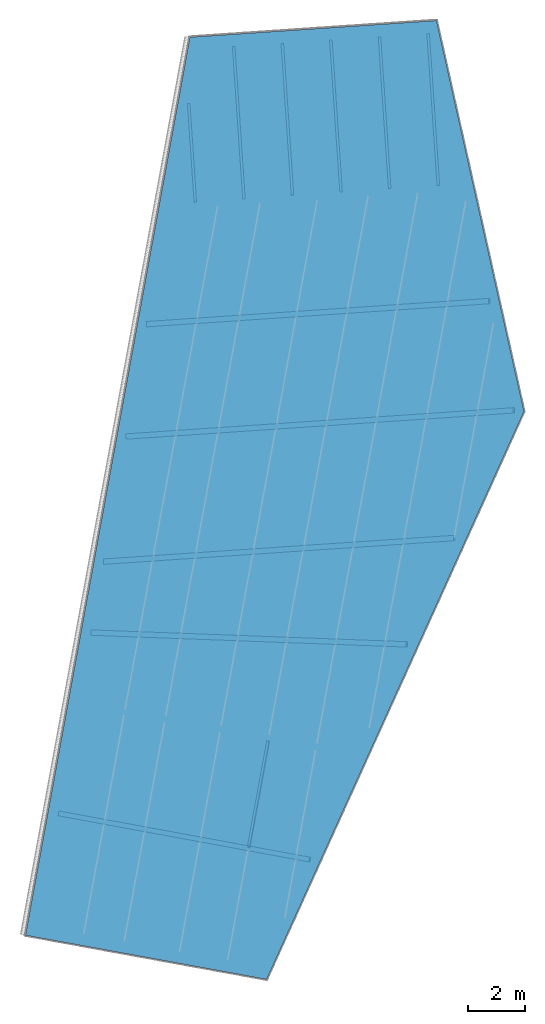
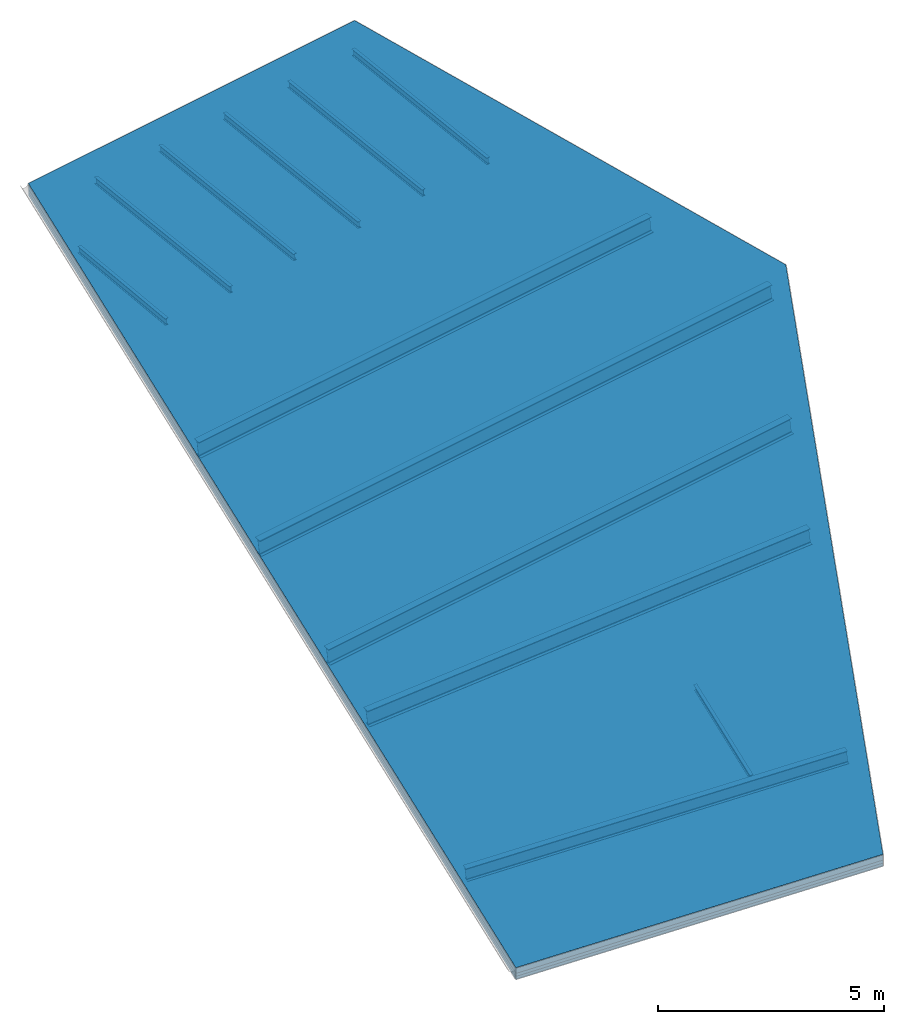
# One storey, part 1 of 3: 12 beams, 5 building element parts, 1 element without a shape of its own.
"""IFC2X3 building model written with IfcOpenShell, lengths in centimetres."""

import ifcopenshell
import ifcopenshell.guid

model = None  # the IFC model being written
_history = None  # IfcOwnerHistory: only IFC2X3 demands one
_inside = {}  # id of a spatial element -> (the spatial element, [elements in it])
_under = {}  # id of a project, library or spatial element -> (it, [spatial elements below it])
_declared = {}  # id of a project -> (the project, [libraries it declares])
_typed = {}  # id of a type object -> (the type object, [elements of that type])
_made_of = {}  # id of a material, layer set ... -> (it, [elements and type objects made of it])


def new_model(schema):
    """Start an empty IFC model of exactly this schema.

    Asked for "IFC4X3", IfcOpenShell would pick the latest addendum, in which some entities
    have other attributes; the version numbers below select the first issue.
    IFC2X3 requires an IfcOwnerHistory on every rooted entity: one is made here for all.
    """
    global model, _history
    if schema == "IFC4X3":
        model = ifcopenshell.file(schema_version=(4, 3, 0, 0))
    else:
        model = ifcopenshell.file(schema=schema)
    _inside.clear()
    _under.clear()
    _declared.clear()
    _typed.clear()
    _made_of.clear()
    _history = None
    if model.schema == "IFC2X3":
        org = make("IfcOrganization", Name="unknown")
        user = make(
            "IfcPersonAndOrganization",
            ThePerson=make("IfcPerson", FamilyName="unknown"),
            TheOrganization=org,
        )
        app = make(
            "IfcApplication",
            ApplicationDeveloper=org,
            Version="unknown",
            ApplicationFullName="unknown",
            ApplicationIdentifier="unknown",
        )
        _history = make(
            "IfcOwnerHistory",
            OwningUser=user,
            OwningApplication=app,
            ChangeAction="ADDED",
            CreationDate=0,
        )
    return model


def make(cls, **values):
    """One entity of the class cls with the attributes given. An attribute that is None is left unset."""
    return model.create_entity(
        cls, **{name: value for name, value in values.items() if value is not None}
    )


def entity(cls, *values):
    """Any entity or typed value of the class cls, its attributes in the order of the schema. None: left unset."""
    e = model.create_entity(cls)
    for i, value in enumerate(values):
        if value is not None:
            e[i] = value
    return e


def rooted(cls, **values):
    """An entity with a GlobalId (a new one), such as an element, a storey or a relation."""
    return make(cls, GlobalId=ifcopenshell.guid.new(), OwnerHistory=_history, **values)


def si_unit(unit_type, name, prefix=None):
    """IfcSIUnit, for example si_unit("LENGTHUNIT", "METRE", prefix="MILLI")."""
    return make("IfcSIUnit", UnitType=unit_type, Prefix=prefix, Name=name)


def converted_unit(unit_type, name, factor, base, dimensions=None, offset=None):
    """IfcConversionBasedUnit, such as the inch: factor (a typed value) times the base unit."""
    return make(
        "IfcConversionBasedUnit"
        if offset is None
        else "IfcConversionBasedUnitWithOffset",
        ConversionOffset=offset,
        Dimensions=None
        if dimensions is None
        else entity("IfcDimensionalExponents", *dimensions),
        UnitType=unit_type,
        Name=name,
        ConversionFactor=make(
            "IfcMeasureWithUnit", ValueComponent=factor, UnitComponent=base
        ),
    )


def derived_unit(unit_type, elements):
    """IfcDerivedUnit: a product of units, each with its exponent."""
    return make(
        "IfcDerivedUnit",
        Elements=[
            make("IfcDerivedUnitElement", Unit=unit, Exponent=power)
            for unit, power in elements
        ],
        UnitType=unit_type,
    )


def assignment(units):
    """IfcUnitAssignment: the units of a project."""
    return None if units is None else make("IfcUnitAssignment", Units=units)


def point(xyz):
    """IfcCartesianPoint."""
    return None if xyz is None else make("IfcCartesianPoint", Coordinates=xyz)


def direction(xyz):
    """IfcDirection."""
    return None if xyz is None else make("IfcDirection", DirectionRatios=xyz)


def frame(location, z_axis=None, x_axis=None):
    """IfcAxis2Placement3D, a coordinate frame: its origin and axes. An axis left out is left unset."""
    return make(
        "IfcAxis2Placement3D",
        Location=point(location),
        Axis=direction(z_axis),
        RefDirection=direction(x_axis),
    )


def frame_2d(location, x_axis=None):
    """IfcAxis2Placement2D, a coordinate frame in the plane: its origin and x axis."""
    return make(
        "IfcAxis2Placement2D", Location=point(location), RefDirection=direction(x_axis)
    )


def origin():
    """The frame at (0, 0, 0) with its axes left unset."""
    return frame((0.0, 0.0, 0.0))


def place(relative_to, where):
    """IfcLocalPlacement: puts the frame where relative to a parent placement (None: the world)."""
    return make(
        "IfcLocalPlacement", PlacementRelTo=relative_to, RelativePlacement=where
    )


def context(
    kind, dimensions, precision=None, world=None, true_north=None, identifier=None
):
    """IfcGeometricRepresentationContext, for example the 3D "Model" context."""
    return make(
        "IfcGeometricRepresentationContext",
        ContextIdentifier=identifier,
        ContextType=kind,
        CoordinateSpaceDimension=dimensions,
        Precision=precision,
        WorldCoordinateSystem=world,
        TrueNorth=true_north,
    )


def subcontext(parent, identifier, kind, view, scale=None):
    """IfcGeometricRepresentationSubContext, for example "Body" below "Model"."""
    return make(
        "IfcGeometricRepresentationSubContext",
        ContextIdentifier=identifier,
        ContextType=kind,
        ParentContext=parent,
        TargetScale=scale,
        TargetView=view,
    )


def project(units=None, contexts=None):
    """IfcProject with its units and contexts."""
    return rooted(
        "IfcProject",
        Name="project",
        RepresentationContexts=contexts,
        UnitsInContext=assignment(units),
    )


def spatial(cls, under=None, at=None, **own):
    """A site, building, storey or space (cls), placed at a placement, below another one or the project."""
    s = rooted(cls, ObjectPlacement=at, **own)
    if under is not None:
        _under.setdefault(under.id(), (under, []))[1].append(s)
    return s


def polyline(points):
    """IfcPolyline through the points."""
    return make("IfcPolyline", Points=[point(p) for p in points])


def circle_curve(where, radius):
    """IfcCircle in the frame where."""
    return make("IfcCircle", Position=where, Radius=radius)


def parameter(value):
    """IfcParameterValue: where a trimmed curve begins or ends, as a parameter of its basis curve."""
    return model.create_entity("IfcParameterValue", value)


def trimmed(basis, trim1, trim2, sense, master):
    """IfcTrimmedCurve: the piece of a basis curve between two trims."""
    return make(
        "IfcTrimmedCurve",
        BasisCurve=basis,
        Trim1=trim1,
        Trim2=trim2,
        SenseAgreement=sense,
        MasterRepresentation=master,
    )


def segment(curve, same_sense, transition):
    """IfcCompositeCurveSegment."""
    return make(
        "IfcCompositeCurveSegment",
        Transition=transition,
        SameSense=same_sense,
        ParentCurve=curve,
    )


def composite_curve(segments, self_intersect=None):
    """IfcCompositeCurve: segments joined end to end."""
    return make("IfcCompositeCurve", Segments=segments, SelfIntersect=self_intersect)


def profile(cls, at=None, kind="AREA", **sizes):
    """A parametric profile (cls). Its sizes go by their IFC names, for example OverallWidth=200.0."""
    return make(cls, ProfileType=kind, Position=at, **sizes)


def i_section(**sizes):
    """IfcIShapeProfileDef."""
    return profile("IfcIShapeProfileDef", **sizes)


def outline(outer, holes=None, kind="AREA"):
    """IfcArbitraryClosedProfileDef: a profile drawn as a closed curve; with holes, ...WithVoids."""
    if holes is None:
        return make("IfcArbitraryClosedProfileDef", ProfileType=kind, OuterCurve=outer)
    return make(
        "IfcArbitraryProfileDefWithVoids",
        ProfileType=kind,
        OuterCurve=outer,
        InnerCurves=holes,
    )


def extrude(swept, where, along, depth):
    """IfcExtrudedAreaSolid: the profile swept, set in the frame where, extruded along a direction by depth."""
    return make(
        "IfcExtrudedAreaSolid",
        SweptArea=swept,
        Position=where,
        ExtrudedDirection=direction(along),
        Depth=depth,
    )


def clip(a, b, op="DIFFERENCE"):
    """IfcBooleanClippingResult: the solid a cut by the half space b."""
    return make(
        "IfcBooleanClippingResult", Operator=op, FirstOperand=a, SecondOperand=b
    )


def bounded_halfspace(plane, agree, where, boundary):
    """IfcPolygonalBoundedHalfSpace: a half space limited to a polygon's prism."""
    return make(
        "IfcPolygonalBoundedHalfSpace",
        BaseSurface=make("IfcPlane", Position=plane),
        AgreementFlag=agree,
        Position=where,
        PolygonalBoundary=boundary,
    )


def faces_of(points, faces, orient=None, outer=None):
    """IfcFace entities. A face is a list of loops; a loop is a list of indices into points, from 0.

    orient and outer hold one flag for each loop. By default every Orientation is true, the
    first loop of a face is its IfcFaceOuterBound and the others are IfcFaceBound.
    """
    made = []
    for i, loops in enumerate(faces):
        bounds = []
        for j, loop in enumerate(loops):
            is_outer = j == 0 if outer is None else outer[i][j]
            bounds.append(
                make(
                    "IfcFaceOuterBound" if is_outer else "IfcFaceBound",
                    Bound=make("IfcPolyLoop", Polygon=[points[k] for k in loop]),
                    Orientation=True if orient is None else orient[i][j],
                )
            )
        made.append(make("IfcFace", Bounds=bounds))
    return made


def faceted_brep(points, faces, orient=None, outer=None, voids=None):
    """IfcFacetedBrep: a solid bounded by flat faces; with voids (closed shells), ...WithVoids."""
    shared = [point(p) for p in points]
    hull = make("IfcClosedShell", CfsFaces=faces_of(shared, faces, orient, outer))
    if voids is None:
        return make("IfcFacetedBrep", Outer=hull)
    return make(
        "IfcFacetedBrepWithVoids",
        Outer=hull,
        Voids=[
            make(cls, CfsFaces=faces_of(shared, fs, o, b)) for cls, fs, o, b in voids
        ],
    )


def shape(context_of_items, identifier, shape_type, items):
    """IfcShapeRepresentation: the items that make up one representation, for example the "Body"."""
    return make(
        "IfcShapeRepresentation",
        ContextOfItems=context_of_items,
        RepresentationIdentifier=identifier,
        RepresentationType=shape_type,
        Items=items,
    )


def material(Name=None, Category=None):
    """IfcMaterial."""
    return make("IfcMaterial", Name=Name, Category=Category)


def made_of(thing, what):
    """Note that an element or type object is made of a material, layer set ...; save() writes the relation."""
    if what is not None:
        _made_of.setdefault(what.id(), (what, []))[1].append(thing)
    return thing


def type_object(cls, material=None, **own):
    """A type object (cls), such as IfcWallType, which elements share."""
    return made_of(rooted(cls, **own), material)


def element(
    cls,
    number,
    at=None,
    inside=None,
    cuts=None,
    type_object=None,
    material=None,
    context=None,
    identifier="Body",
    shape_type=None,
    held_by="IfcProductDefinitionShape",
    body=None,
    shapes=None,
    **own,
):
    """One element of the class cls, such as IfcWall. Its Tag is "e" and its number.

    at: its placement. inside: the storey or other place that contains it. cuts: it is an
    opening in that element (IfcRelVoidsElement). A single representation is given by context,
    identifier, shape_type and body (its items); several are given by shapes. held_by: the class
    of the entity that holds the representations. save() writes the other relations.
    """
    e = rooted(cls, Tag="e%d" % number, ObjectPlacement=at, **own)
    if body is not None:
        shapes = [shape(context, identifier, shape_type, body)]
    if shapes is not None:
        e.Representation = make(held_by, Representations=shapes)
    if inside is not None:
        _inside.setdefault(inside.id(), (inside, []))[1].append(e)
    if cuts is not None:
        rooted(
            "IfcRelVoidsElement", RelatingBuildingElement=cuts, RelatedOpeningElement=e
        )
    if type_object is not None:
        _typed.setdefault(type_object.id(), (type_object, []))[1].append(e)
    return made_of(e, material)


def aggregate(whole, parts):
    """IfcRelAggregates: a whole, such as a stair, and the parts it consists of."""
    return rooted("IfcRelAggregates", RelatingObject=whole, RelatedObjects=parts)


def save(model, path):
    """Write the relations noted so far, then the file.

    IfcRelAggregates (storeys below a building ...), IfcRelContainedInSpatialStructure (elements
    in a storey), IfcRelDefinesByType, IfcRelAssociatesMaterial and IfcRelDeclares: one each for
    every whole, place, type object, material and project.
    """
    for whole, parts in _under.values():
        aggregate(whole, parts)
    for where, things in _inside.values():
        rooted(
            "IfcRelContainedInSpatialStructure",
            RelatedElements=things,
            RelatingStructure=where,
        )
    for kind, things in _typed.values():
        rooted("IfcRelDefinesByType", RelatedObjects=things, RelatingType=kind)
    for what, things in _made_of.values():
        rooted("IfcRelAssociatesMaterial", RelatedObjects=things, RelatingMaterial=what)
    for by, libraries in _declared.values():
        rooted("IfcRelDeclares", RelatingContext=by, RelatedDefinitions=libraries)
    model.write(path)


model = new_model("IFC2X3")

# Units and contexts
model_context = context("Model", 3, precision=0.001, world=origin(), true_north=direction((6.12303176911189e-17, 1.0)))
body_context = subcontext(model_context, "Body", "Model", "MODEL_VIEW")
ifc_project = project(units=[si_unit("LENGTHUNIT", "METRE", prefix="CENTI"), si_unit("AREAUNIT", "SQUARE_METRE"), si_unit("VOLUMEUNIT", "CUBIC_METRE"), converted_unit("PLANEANGLEUNIT", "DEGREE", entity("IfcRatioMeasure", 0.0174532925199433), si_unit("PLANEANGLEUNIT", "RADIAN"), dimensions=[0, 0, 0, 0, 0, 0, 0]), si_unit("MASSUNIT", "GRAM", prefix="KILO"), derived_unit("MASSDENSITYUNIT", [(si_unit("MASSUNIT", "GRAM", prefix="KILO"), 1), (si_unit("LENGTHUNIT", "METRE"), -3)]), si_unit("TIMEUNIT", "SECOND"), si_unit("FREQUENCYUNIT", "HERTZ"), si_unit("THERMODYNAMICTEMPERATUREUNIT", "DEGREE_CELSIUS"), derived_unit("THERMALTRANSMITTANCEUNIT", [(si_unit("MASSUNIT", "GRAM", prefix="KILO"), 1), (si_unit("THERMODYNAMICTEMPERATUREUNIT", "KELVIN"), -1), (si_unit("TIMEUNIT", "SECOND"), -3)]), derived_unit("VOLUMETRICFLOWRATEUNIT", [(si_unit("LENGTHUNIT", "METRE"), 3), (si_unit("TIMEUNIT", "SECOND"), -1)]), si_unit("ELECTRICCURRENTUNIT", "AMPERE"), si_unit("ELECTRICVOLTAGEUNIT", "VOLT"), si_unit("POWERUNIT", "WATT"), si_unit("FORCEUNIT", "NEWTON", prefix="KILO"), si_unit("ILLUMINANCEUNIT", "LUX"), si_unit("LUMINOUSFLUXUNIT", "LUMEN"), si_unit("LUMINOUSINTENSITYUNIT", "CANDELA"), derived_unit("USERDEFINED", [(si_unit("MASSUNIT", "GRAM", prefix="KILO"), -1), (si_unit("LENGTHUNIT", "METRE"), -2), (si_unit("TIMEUNIT", "SECOND"), 3), (si_unit("LUMINOUSFLUXUNIT", "LUMEN"), 1)]), derived_unit("LINEARVELOCITYUNIT", [(si_unit("LENGTHUNIT", "METRE"), 1), (si_unit("TIMEUNIT", "SECOND"), -1)]), si_unit("PRESSUREUNIT", "PASCAL"), derived_unit("USERDEFINED", [(si_unit("LENGTHUNIT", "METRE"), -2), (si_unit("MASSUNIT", "GRAM", prefix="KILO"), 1), (si_unit("TIMEUNIT", "SECOND"), -2)])], contexts=[model_context])

# Site, building, storey
site_placement = place(None, frame((2611.71187422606, 13650.4058644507, 0.0), z_axis=(0.0, 0.0, 1.0), x_axis=(0.0673222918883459, -0.997731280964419, 0.0)))
site = spatial("IfcSite", under=ifc_project, at=site_placement, Name="Surface", CompositionType="ELEMENT")
building_placement = place(site_placement, origin())
building = spatial("IfcBuilding", under=site, at=building_placement, CompositionType="ELEMENT")
storey_placement = place(building_placement, frame((0.0, 0.0, 87291.0)))
storey = spatial("IfcBuildingStorey", under=building, at=storey_placement, Name="2 Toiture batiment", CompositionType="ELEMENT", Elevation=87291.0)

# Beams
ifc_material_1 = material(Name="Acier structurel - S235")
beam_type_1 = type_object("IfcBeamType", Name="IPE180", PredefinedType="BEAM")
beam_1_placement = place(storey_placement, frame((1936.92167726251, 501.221674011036, 36.3801945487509), z_axis=(-0.0291480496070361, 0.0, 0.999575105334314), x_axis=(0.999575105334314, 0.0, 0.0291480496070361)))
element("IfcBeam", 1, at=beam_1_placement, inside=storey, type_object=beam_type_1, material=ifc_material_1, Name="IPE:IPE180", ObjectType="IPE:IPE180", context=body_context, shape_type="SweptSolid", body=[
    extrude(i_section(OverallWidth=9.09999999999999, OverallDepth=18.0000000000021, WebThickness=0.529999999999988, FlangeThickness=0.799999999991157, FilletRadius=0.899999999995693, at=frame_2d((1.38609124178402e-11, 5.41788836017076e-14), x_axis=(0.0, 1.0))), frame((26.2457202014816, 0.0, -9.0), z_axis=(1.0, 0.0, 0.0), x_axis=(0.0, 0.0, -1.0)), (0.0, 0.0, 1.0), 535.756511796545),
])
beam_2_placement = place(storey_placement, frame((1963.06010844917, 672.649552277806, 57.4033533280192), z_axis=(-0.0302775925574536, 0.0, 0.999541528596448), x_axis=(0.999541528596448, 0.0, 0.0302775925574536)))
element("IfcBeam", 2, at=beam_2_placement, inside=storey, type_object=beam_type_1, material=ifc_material_1, Name="IPE:IPE180", ObjectType="IPE:IPE180", context=body_context, shape_type="SweptSolid", body=[
    extrude(i_section(OverallWidth=9.09999999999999, OverallDepth=17.999999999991, WebThickness=0.529999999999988, FlangeThickness=0.79999999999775, FilletRadius=0.899999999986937, at=frame_2d((0.0, 5.41788836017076e-14), x_axis=(0.0, 1.0))), frame((0.0, 0.0, -9.0), z_axis=(1.0, 0.0, 0.0), x_axis=(0.0, 0.0, -1.0)), (0.0, 0.0, 1.0), 536.396743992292),
])
beam_3_placement = place(storey_placement, frame((1963.31821102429, 844.13868640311, 76.7999999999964), z_axis=(-0.0301675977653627, 0.0, 0.999544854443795), x_axis=(0.999544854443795, 0.0, 0.0301675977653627)))
element("IfcBeam", 3, at=beam_3_placement, inside=storey, type_object=beam_type_1, material=ifc_material_1, Name="IPE:IPE180", ObjectType="IPE:IPE180", context=body_context, shape_type="SweptSolid", body=[
    extrude(i_section(OverallWidth=9.09999999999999, OverallDepth=17.9999999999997, WebThickness=0.529999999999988, FlangeThickness=0.800000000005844, FilletRadius=0.90000000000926, at=frame_2d((-2.0794921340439e-11, 2.70894418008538e-13), x_axis=(0.0, 1.0))), frame((0.0, 0.0, -9.0), z_axis=(1.0, 0.0, 0.0), x_axis=(0.0, 0.0, -1.0)), (0.0, 0.0, 1.0), 535.617141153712),
])
beam_4_placement = place(storey_placement, frame((1962.9767262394, 1015.83249967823, 96.0), z_axis=(-0.0307262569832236, 0.0, 0.999527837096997), x_axis=(0.999527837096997, 0.0, 0.0307262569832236)))
element("IfcBeam", 4, at=beam_4_placement, inside=storey, type_object=beam_type_1, material=ifc_material_1, Name="IPE:IPE180", ObjectType="IPE:IPE180", context=body_context, shape_type="SweptSolid", body=[
    extrude(i_section(OverallWidth=9.1000000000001, OverallDepth=18.000000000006, WebThickness=0.530000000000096, FlangeThickness=0.800000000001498, FilletRadius=0.90000000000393, at=frame_2d((-1.38680178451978e-11, 1.08357767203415e-13), x_axis=(0.0, 1.0))), frame((0.0, 0.0, -9.0), z_axis=(1.0, 0.0, 0.0), x_axis=(0.0, 0.0, -1.0)), (0.0, 0.0, 1.0), 537.0),
])
beam_5_placement = place(storey_placement, frame((1937.45606735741, 329.791674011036, 16.5183298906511), z_axis=(-0.029651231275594, 0.0, 0.999560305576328), x_axis=(0.999560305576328, 0.0, 0.029651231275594)))
element("IfcBeam", 5, at=beam_5_placement, inside=storey, type_object=beam_type_1, material=ifc_material_1, Name="IPE:IPE180", ObjectType="IPE:IPE180", context=body_context, shape_type="SweptSolid", body=[
    extrude(i_section(OverallWidth=9.10000000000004, OverallDepth=17.9999999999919, WebThickness=0.529999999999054, FlangeThickness=0.800000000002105, FilletRadius=0.899999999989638, at=frame_2d((0.0, -2.70894418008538e-14), x_axis=(0.0, 1.0))), frame((25.0812592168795, 0.0, -9.0), z_axis=(1.0, 0.0, 0.0), x_axis=(0.0, 0.0, -1.0)), (0.0, 0.0, 1.0), 538.212992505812),
])
beam_6_placement = place(storey_placement, frame((2500.3056178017, 158.289450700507, 12.9606220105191), z_axis=(-0.0165965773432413, 0.0, 0.9998622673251), x_axis=(-0.9998622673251, 0.0, -0.0165965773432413)))
element("IfcBeam", 6, at=beam_6_placement, inside=storey, type_object=beam_type_1, material=ifc_material_1, Name="IPE:IPE180", ObjectType="IPE:IPE180", context=body_context, shape_type="SweptSolid", body=[
    extrude(i_section(OverallWidth=9.10000000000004, OverallDepth=18.0000000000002, WebThickness=0.529999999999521, FlangeThickness=0.799999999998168, FilletRadius=0.900000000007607, at=frame_2d((0.0, -1.37667655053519e-14), x_axis=(0.0, 1.0))), frame((-0.108322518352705, 0.0, -9.0), z_axis=(1.0, 0.0, 0.0), x_axis=(0.0, 0.0, -1.0)), (0.0, 0.0, 1.0), 348.341336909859),
])
beam_type_2 = type_object("IfcBeamType", Name="IPE160", PredefinedType="BEAM")
beam_7_placement = place(storey_placement, frame((4782.3285603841, 190.587220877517, 85.3401515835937), z_axis=(-0.000328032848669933, 8.35110068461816e-05, 0.99999994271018), x_axis=(-0.969088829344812, 0.24671182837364, -0.000338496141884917)))
element("IfcBeam", 7, at=beam_7_placement, inside=storey, type_object=beam_type_2, material=ifc_material_1, Name="IPE:IPE160", ObjectType="IPE:IPE160", context=body_context, shape_type="Clipping", body=[
    clip(clip(extrude(outline(composite_curve([segment(polyline([(-4.09999999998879, -7.26000000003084), (-4.0999999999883, -8.0)]), True, "CONTINUOUS"), segment(polyline([(-4.09999999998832, -8.0), (4.10000000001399, -8.0)]), True, "CONTINUOUS"), segment(polyline([(4.10000000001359, -8.0), (4.10000000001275, -7.25999999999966)]), True, "CONTINUOUS"), segment(polyline([(4.10000000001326, -7.25999999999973), (1.15000000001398, -7.2600000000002)]), True, "CONTINUOUS"), segment(trimmed(circle_curve(frame_2d((1.15000000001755, -6.36000000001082), x_axis=(-1.0, 0.0)), 0.900000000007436), [parameter(0.0)], [parameter(89.9999999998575)], True, "PARAMETER"), False, "CONTINUOUS"), segment(polyline([(0.2500000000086, -6.36000000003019), (0.249999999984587, 6.35999999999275)]), True, "CONTINUOUS"), segment(trimmed(circle_curve(frame_2d((1.14999999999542, 6.35999999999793), x_axis=(0.0, 1.0)), 0.900000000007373), [parameter(0.0)], [parameter(89.9999999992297)], True, "PARAMETER"), False, "CONTINUOUS"), segment(polyline([(1.1499999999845, 7.25999999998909), (4.09999999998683, 7.26000000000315)]), True, "CONTINUOUS"), segment(polyline([(4.09999999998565, 7.26000000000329), (4.0999999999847, 8.0)]), True, "CONTINUOUS"), segment(polyline([(4.0999999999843, 8.0), (-4.10000000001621, 8.0)]), True, "CONTINUOUS"), segment(polyline([(-4.10000000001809, 8.0), (-4.10000000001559, 7.25999999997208)]), True, "CONTINUOUS"), segment(polyline([(-4.10000000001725, 7.25999999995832), (-1.15000000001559, 7.25999999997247)]), True, "CONTINUOUS"), segment(trimmed(circle_curve(frame_2d((-1.15000000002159, 6.35999999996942), x_axis=(1.0, 0.0)), 0.900000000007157), [parameter(0.0)], [parameter(89.9999999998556)], True, "PARAMETER"), False, "CONTINUOUS"), segment(polyline([(-0.250000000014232, 6.35999999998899), (-0.249999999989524, -6.36000000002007)]), True, "CONTINUOUS"), segment(trimmed(circle_curve(frame_2d((-1.14999999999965, -6.3600000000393), x_axis=(0.0, -1.0)), 0.90000000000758), [parameter(0.0)], [parameter(89.999999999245)], True, "PARAMETER"), False, "CONTINUOUS"), segment(polyline([(-1.14999999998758, -7.26000000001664), (-4.09999999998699, -7.2600000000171)]), True, "CONTINUOUS")], self_intersect=False)), frame((2.40108834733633, -0.974954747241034, -7.94036921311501), z_axis=(-1.0, 0.0, 0.0), x_axis=(0.0, -0.992546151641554, 0.121869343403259)), (0.0, 0.0, -1.0), 382.093641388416), bounded_halfspace(frame((10.492074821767, -220.974147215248, 23.4146814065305), z_axis=(-0.999999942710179, 0.0, -0.000338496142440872), x_axis=(4.06120647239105e-05, 0.992776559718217, -0.119977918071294)), False, frame((2.40108834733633, -0.974954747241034, -7.94036921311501), z_axis=(-1.0, 0.0, 0.0), x_axis=(0.0, -0.992546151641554, 0.121869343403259)), polyline([(-0.250000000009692, 4.73399914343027), (0.249999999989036, 4.7330464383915), (0.25000000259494, 6.35999999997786), (1.14999999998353, 7.25999999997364), (4.09999999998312, 7.260000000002), (4.09999999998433, 8.0), (-4.10000000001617, 8.0), (-4.10000000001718, 7.25999999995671), (-1.15000000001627, 7.26000000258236), (-0.250000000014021, 6.35999999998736), (-0.250000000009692, 4.73399914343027)]))), bounded_halfspace(frame((2.3920752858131, -220.97414721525, 23.4119395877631), z_axis=(-0.000336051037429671, 0.119977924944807, 0.992776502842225), x_axis=(4.06120647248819e-05, 0.992776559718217, -0.119977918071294)), False, frame((2.40108834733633, -0.974954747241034, -7.94036921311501), z_axis=(-1.0, 0.0, 0.0), x_axis=(0.0, -0.992546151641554, 0.121869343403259)), polyline([(-0.250000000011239, 4.73127712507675), (0.24999999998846, 4.73032442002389), (0.249999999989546, 4.73304643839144), (-0.250000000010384, 4.73399914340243), (-0.250000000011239, 4.73127712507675)]))),
])
beam_type_3 = type_object("IfcBeamType", Name="IPE450", PredefinedType="BEAM")
beam_8_placement = place(storey_placement, frame((2917.56644128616, 1161.83323675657, 142.638559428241), z_axis=(0.0, -0.115171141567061, 0.993345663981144), x_axis=(0.0, -0.993345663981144, -0.115171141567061)))
element("IfcBeam", 8, at=beam_8_placement, inside=storey, type_object=beam_type_3, material=ifc_material_1, Name="IPE:IPE450", ObjectType="IPE:IPE450", context=body_context, shape_type="SweptSolid", body=[
    extrude(i_section(OverallWidth=19.0, OverallDepth=44.9999999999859, WebThickness=0.940000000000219, FlangeThickness=1.45999999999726, FilletRadius=2.09999999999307, at=frame_2d((-2.78994605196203e-11, 4.33431068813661e-13), x_axis=(0.0, 1.0))), frame((-2.91499999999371, 0.0, -22.5000000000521), z_axis=(1.0, 0.0, 0.0), x_axis=(0.0, 0.0, -1.0)), (0.0, 0.0, 1.0), 1215.33),
])
beam_9_placement = place(storey_placement, frame((3307.27031572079, 1220.12326503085, 161.799999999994), z_axis=(0.0, -0.116279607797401, 0.993216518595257), x_axis=(0.0, -0.993216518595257, -0.116279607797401)))
element("IfcBeam", 9, at=beam_9_placement, inside=storey, type_object=beam_type_3, material=ifc_material_1, Name="IPE:IPE450", ObjectType="IPE:IPE450", context=body_context, shape_type="SweptSolid", body=[
    extrude(i_section(OverallWidth=19.0, OverallDepth=45.0000000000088, WebThickness=0.940000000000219, FlangeThickness=1.45999999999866, FilletRadius=2.10000000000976, at=frame_2d((0.0, 4.33431068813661e-13), x_axis=(0.0, 1.0))), frame((-4.45500000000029, 0.0, -22.4999999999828), z_axis=(1.0, 0.0, 0.0), x_axis=(0.0, 0.0, -1.0)), (0.0, 0.0, 1.0), 1375.41),
])
beam_10_placement = place(storey_placement, frame((3741.47284050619, 983.514620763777, 147.041532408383), z_axis=(0.0, -0.115800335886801, 0.993272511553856), x_axis=(0.0, -0.993272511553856, -0.115800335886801)))
element("IfcBeam", 10, at=beam_10_placement, inside=storey, type_object=beam_type_3, material=ifc_material_1, Name="IPE:IPE450", ObjectType="IPE:IPE450", context=body_context, shape_type="SweptSolid", body=[
    extrude(i_section(OverallWidth=19.0, OverallDepth=44.9999999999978, WebThickness=0.940000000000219, FlangeThickness=1.46000000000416, FilletRadius=2.09999999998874, at=frame_2d((-1.3953282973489e-11, 8.65973959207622e-13), x_axis=(0.0, 1.0))), frame((-2.10470614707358, 0.0, -22.5000000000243), z_axis=(1.0, 0.0, 0.0), x_axis=(0.0, 0.0, -1.0)), (0.0, 0.0, 1.0), 1243.77),
])
beam_11_placement = place(storey_placement, frame((4103.62355685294, 793.805497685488, 134.700760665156), z_axis=(-0.0122659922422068, -0.116703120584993, 0.993091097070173), x_axis=(-0.103806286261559, -0.987650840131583, -0.11734595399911)))
element("IfcBeam", 11, at=beam_11_placement, inside=storey, type_object=beam_type_3, material=ifc_material_1, Name="IPE:IPE450", ObjectType="IPE:IPE450", context=body_context, shape_type="SweptSolid", body=[
    extrude(i_section(OverallWidth=19.0000000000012, OverallDepth=44.9999999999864, WebThickness=0.939999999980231, FlangeThickness=1.4599999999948, FilletRadius=2.10000000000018, at=frame_2d((0.0, 0.0), x_axis=(0.0, 1.0))), frame((0.594019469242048, 0.0, -22.4999999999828), z_axis=(1.0, 0.0, 0.0), x_axis=(0.0, 0.0, -1.0)), (0.0, 0.0, 1.0), 1116.88),
])
beam_type_4 = type_object("IfcBeamType", Name="IPE360", PredefinedType="BEAM")
beam_12_placement = place(storey_placement, frame((4837.31477926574, 406.574151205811, 112.274947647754), z_axis=(-0.0295999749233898, -0.116269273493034, 0.992776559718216), x_axis=(-0.244929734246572, -0.962088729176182, -0.119977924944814)))
element("IfcBeam", 12, at=beam_12_placement, inside=storey, type_object=beam_type_4, material=ifc_material_1, Name="IPE:IPE360", ObjectType="IPE:IPE360", context=body_context, shape_type="SweptSolid", body=[
    extrude(i_section(OverallWidth=17.0000000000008, OverallDepth=35.9999999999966, WebThickness=0.800000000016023, FlangeThickness=1.2699999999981, FilletRadius=1.80000000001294, at=frame_2d((0.0, 0.0), x_axis=(0.0, 1.0))), frame((4.31115995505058, 0.0, -18.0), z_axis=(1.0, 0.0, 0.0), x_axis=(0.0, 0.0, -1.0)), (0.0, 0.0, 1.0), 903.818631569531),
])

# Roof, building element parts
roof_placement = place(storey_placement, origin())
roof = element("IfcRoof", 13, at=roof_placement, inside=storey, Name="Toit de base:Couverture bac acier double peau", ObjectType="Toit de base:Couverture bac acier double peau", ShapeType="NOTDEFINED")
ifc_material_2 = material(Name="Bac acier")
building_element_part_1_placement = place(roof_placement, frame((1919.82532757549, -612.110807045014, 30.7188150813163)))
building_element_part_1 = element("IfcBuildingElementPart", 14, at=building_element_part_1_placement, material=ifc_material_2, Name="Elément", context=body_context, shape_type="Brep", body=[
    faceted_brep([(3115.39621696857, 0.0, 0.0), (0.0, 790.499238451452, 0.0), (0.0, 1660.41716414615, 101.183665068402), (1393.64902967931, 1875.22599026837, 167.300367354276), (3327.66814340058, 836.574059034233, 103.570186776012), (1393.64902967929, 1875.22599026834, 168.81112875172), (0.0, 1660.41716414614, 102.694426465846), (0.0, 790.499238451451, 1.51076139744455), (3115.39621696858, 0.0, 1.51076139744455), (3327.66814340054, 836.574059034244, 105.080948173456)], [[[0, 1, 2, 3, 4]], [[5, 6, 7, 8, 9]], [[8, 7, 1, 0]], [[9, 8, 0, 4]], [[7, 6, 2, 1]], [[6, 5, 3, 2]], [[5, 9, 4, 3]]]),
])
ifc_material_3 = material(Name="Isolant Laine minérale 140mm")
building_element_part_2_placement = place(roof_placement, frame((1919.82532757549, -612.110807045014, 16.6183753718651)))
building_element_part_2 = element("IfcBuildingElementPart", 15, at=building_element_part_2_placement, material=ifc_material_3, Name="Elément", context=body_context, shape_type="Brep", body=[
    faceted_brep([(3115.39621696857, 0.0, 0.0), (0.0, 790.499238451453, 0.0), (0.0, 1660.41716414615, 101.183665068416), (1393.6490296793, 1875.22599026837, 167.300367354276), (3327.66814340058, 836.574059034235, 103.570186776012), (3115.39621696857, 0.0, 14.1004397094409), (0.0, 790.499238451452, 14.1004397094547), (3327.66814340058, 836.574059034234, 117.670626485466), (0.0, 1660.41716414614, 115.284104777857), (1393.64902967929, 1875.22599026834, 181.400807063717)], [[[0, 1, 2, 3, 4]], [[0, 5, 6, 1]], [[5, 0, 4, 7]], [[1, 6, 8, 2]], [[2, 8, 9, 3]], [[7, 4, 3, 9]], [[6, 5, 7, 9, 8]]]),
])
ifc_material_4 = material(Name="Pare vapeur feutre alu tendu")
building_element_part_3_placement = place(roof_placement, frame((1919.82532757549, -612.110807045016, 8.5609812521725)))
building_element_part_3 = element("IfcBuildingElementPart", 16, at=building_element_part_3_placement, material=ifc_material_4, Name="Elément", context=body_context, shape_type="Brep", body=[
    faceted_brep([(3115.39621696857, 0.0, 0.0), (0.0, 790.499238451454, 0.0), (0.0, 1660.41716414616, 101.183665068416), (1393.64902967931, 1875.22599026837, 167.300367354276), (3327.66814340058, 836.574059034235, 103.570186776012), (3115.39621696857, 0.0, 8.0573941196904), (0.0, 790.499238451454, 8.05739411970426), (3327.66814340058, 836.574059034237, 111.627580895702), (0.0, 1660.41716414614, 109.241059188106), (1393.64902967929, 1875.22599026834, 175.357761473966)], [[[0, 1, 2, 3, 4]], [[0, 5, 6, 1]], [[5, 0, 4, 7]], [[1, 6, 8, 2]], [[2, 8, 9, 3]], [[7, 4, 3, 9]], [[6, 5, 7, 9, 8]]]),
])
ifc_material_5 = material(Name="Isolant Laine minairale 70mm")
building_element_part_4_placement = place(roof_placement, frame((1919.82532757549, -612.110807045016, 1.51076139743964)))
building_element_part_4 = element("IfcBuildingElementPart", 17, at=building_element_part_4_placement, material=ifc_material_5, Name="Elément", context=body_context, shape_type="Brep", body=[
    faceted_brep([(3115.39621696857, 0.0, 0.0), (0.0, 790.499238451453, 0.0), (0.0, 1660.41716414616, 101.183665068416), (1393.64902967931, 1875.22599026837, 167.300367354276), (3327.66814340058, 836.574059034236, 103.570186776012), (3115.39621696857, 0.0, 7.05021985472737), (0.0, 790.499238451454, 7.05021985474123), (3327.66814340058, 836.574059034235, 110.620406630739), (0.0, 1660.41716414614, 108.233884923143), (1393.64902967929, 1875.22599026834, 174.350587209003)], [[[0, 1, 2, 3, 4]], [[0, 5, 6, 1]], [[5, 0, 4, 7]], [[1, 6, 8, 2]], [[2, 8, 9, 3]], [[7, 4, 3, 9]], [[6, 5, 7, 9, 8]]]),
])
building_element_part_5_placement = place(roof_placement, frame((1919.82532757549, -612.110807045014, 0.0)))
building_element_part_5 = element("IfcBuildingElementPart", 18, at=building_element_part_5_placement, material=ifc_material_2, Name="Elément", context=body_context, shape_type="Brep", body=[
    faceted_brep([(0.0, 790.499238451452, 0.0), (3115.39621696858, 0.0, 0.0), (3115.39621696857, 0.0, 1.51076139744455), (0.0, 790.499238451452, 1.51076139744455), (3327.66814340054, 836.574059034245, 103.570186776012), (3327.66814340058, 836.574059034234, 105.080948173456), (0.0, 1660.41716414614, 101.183665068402), (0.0, 1660.41716414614, 102.69442646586), (1393.64902967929, 1875.22599026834, 167.300367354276), (1393.64902967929, 1875.22599026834, 168.81112875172)], [[[0, 1, 2, 3]], [[1, 4, 5, 2]], [[6, 0, 3, 7]], [[8, 6, 7, 9]], [[4, 8, 9, 5]], [[3, 2, 5, 9, 7]], [[6, 8, 4, 1, 0]]]),
])
aggregate(roof, [building_element_part_1, building_element_part_2, building_element_part_3, building_element_part_4, building_element_part_5])

save(model, "model.ifc")
